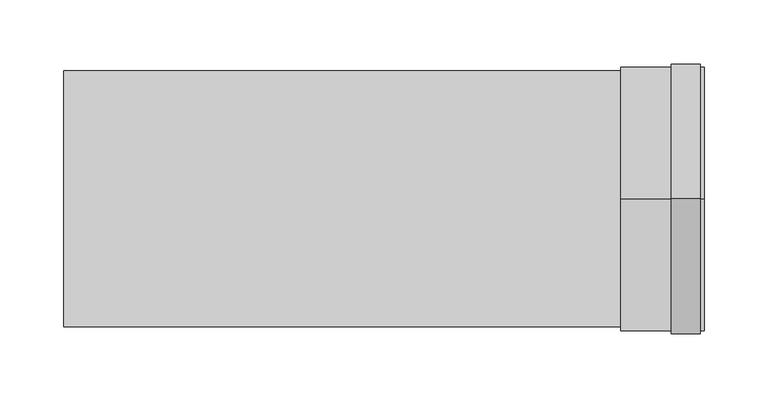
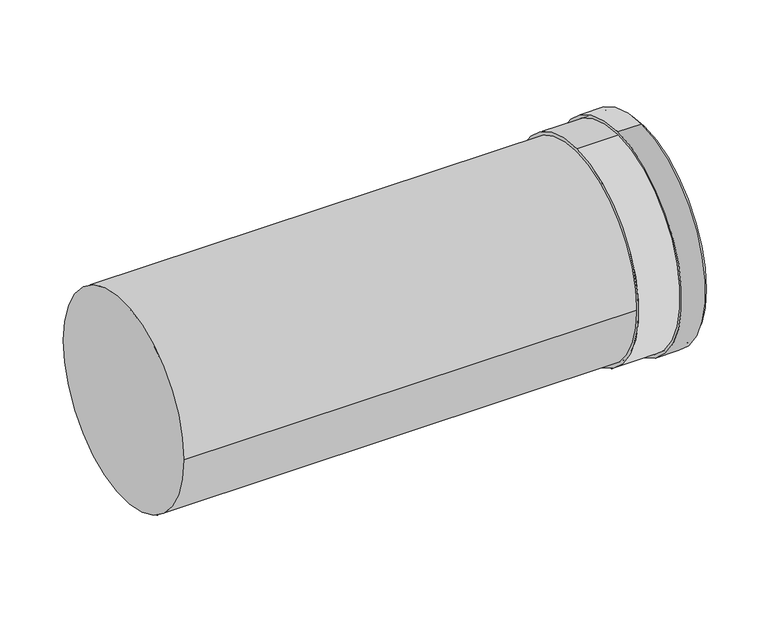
"""IFC4 building model written with IfcOpenShell, lengths in millimetres: duct fitting geometry, DERS_431_LFT_UN_Twinline Extension_M&G : ø130-150-200."""

import ifcopenshell
import ifcopenshell.guid

model = None  # the IFC model being written
_history = None  # IfcOwnerHistory: only IFC2X3 demands one
_inside = {}  # id of a spatial element -> (the spatial element, [elements in it])
_under = {}  # id of a project, library or spatial element -> (it, [spatial elements below it])
_declared = {}  # id of a project -> (the project, [libraries it declares])
_typed = {}  # id of a type object -> (the type object, [elements of that type])
_made_of = {}  # id of a material, layer set ... -> (it, [elements and type objects made of it])


def new_model(schema):
    """Start an empty IFC model of exactly this schema.

    Asked for "IFC4X3", IfcOpenShell would pick the latest addendum, in which some entities
    have other attributes; the version numbers below select the first issue.
    IFC2X3 requires an IfcOwnerHistory on every rooted entity: one is made here for all.
    """
    global model, _history
    if schema == "IFC4X3":
        model = ifcopenshell.file(schema_version=(4, 3, 0, 0))
    else:
        model = ifcopenshell.file(schema=schema)
    _inside.clear()
    _under.clear()
    _declared.clear()
    _typed.clear()
    _made_of.clear()
    _history = None
    if model.schema == "IFC2X3":
        org = make("IfcOrganization", Name="unknown")
        user = make(
            "IfcPersonAndOrganization",
            ThePerson=make("IfcPerson", FamilyName="unknown"),
            TheOrganization=org,
        )
        app = make(
            "IfcApplication",
            ApplicationDeveloper=org,
            Version="unknown",
            ApplicationFullName="unknown",
            ApplicationIdentifier="unknown",
        )
        _history = make(
            "IfcOwnerHistory",
            OwningUser=user,
            OwningApplication=app,
            ChangeAction="ADDED",
            CreationDate=0,
        )
    return model


def make(cls, **values):
    """One entity of the class cls with the attributes given. An attribute that is None is left unset."""
    return model.create_entity(
        cls, **{name: value for name, value in values.items() if value is not None}
    )


def rooted(cls, **values):
    """An entity with a GlobalId (a new one), such as an element, a storey or a relation."""
    return make(cls, GlobalId=ifcopenshell.guid.new(), OwnerHistory=_history, **values)


def si_unit(unit_type, name, prefix=None):
    """IfcSIUnit, for example si_unit("LENGTHUNIT", "METRE", prefix="MILLI")."""
    return make("IfcSIUnit", UnitType=unit_type, Prefix=prefix, Name=name)


def assignment(units):
    """IfcUnitAssignment: the units of a project."""
    return None if units is None else make("IfcUnitAssignment", Units=units)


def point(xyz):
    """IfcCartesianPoint."""
    return None if xyz is None else make("IfcCartesianPoint", Coordinates=xyz)


def direction(xyz):
    """IfcDirection."""
    return None if xyz is None else make("IfcDirection", DirectionRatios=xyz)


def frame(location, z_axis=None, x_axis=None):
    """IfcAxis2Placement3D, a coordinate frame: its origin and axes. An axis left out is left unset."""
    return make(
        "IfcAxis2Placement3D",
        Location=point(location),
        Axis=direction(z_axis),
        RefDirection=direction(x_axis),
    )


def frame_2d(location, x_axis=None):
    """IfcAxis2Placement2D, a coordinate frame in the plane: its origin and x axis."""
    return make(
        "IfcAxis2Placement2D", Location=point(location), RefDirection=direction(x_axis)
    )


def origin():
    """The frame at (0, 0, 0) with its axes left unset."""
    return frame((0.0, 0.0, 0.0))


def origin_2d():
    """The frame at (0, 0) in the plane with its x axis left unset."""
    return frame_2d((0.0, 0.0))


def place(relative_to, where):
    """IfcLocalPlacement: puts the frame where relative to a parent placement (None: the world)."""
    return make(
        "IfcLocalPlacement", PlacementRelTo=relative_to, RelativePlacement=where
    )


def context(
    kind, dimensions, precision=None, world=None, true_north=None, identifier=None
):
    """IfcGeometricRepresentationContext, for example the 3D "Model" context."""
    return make(
        "IfcGeometricRepresentationContext",
        ContextIdentifier=identifier,
        ContextType=kind,
        CoordinateSpaceDimension=dimensions,
        Precision=precision,
        WorldCoordinateSystem=world,
        TrueNorth=true_north,
    )


def project(units=None, contexts=None):
    """IfcProject with its units and contexts."""
    return rooted(
        "IfcProject",
        Name="project",
        RepresentationContexts=contexts,
        UnitsInContext=assignment(units),
    )


def spatial(cls, under=None, at=None, **own):
    """A site, building, storey or space (cls), placed at a placement, below another one or the project."""
    s = rooted(cls, ObjectPlacement=at, **own)
    if under is not None:
        _under.setdefault(under.id(), (under, []))[1].append(s)
    return s


def polyline(points):
    """IfcPolyline through the points."""
    return make("IfcPolyline", Points=[point(p) for p in points])


def circle_curve(where, radius):
    """IfcCircle in the frame where."""
    return make("IfcCircle", Position=where, Radius=radius)


def trimmed(basis, trim1, trim2, sense, master):
    """IfcTrimmedCurve: the piece of a basis curve between two trims."""
    return make(
        "IfcTrimmedCurve",
        BasisCurve=basis,
        Trim1=trim1,
        Trim2=trim2,
        SenseAgreement=sense,
        MasterRepresentation=master,
    )


def segment(curve, same_sense, transition):
    """IfcCompositeCurveSegment."""
    return make(
        "IfcCompositeCurveSegment",
        Transition=transition,
        SameSense=same_sense,
        ParentCurve=curve,
    )


def composite_curve(segments, self_intersect=None):
    """IfcCompositeCurve: segments joined end to end."""
    return make("IfcCompositeCurve", Segments=segments, SelfIntersect=self_intersect)


def outline(outer, holes=None, kind="AREA"):
    """IfcArbitraryClosedProfileDef: a profile drawn as a closed curve; with holes, ...WithVoids."""
    if holes is None:
        return make("IfcArbitraryClosedProfileDef", ProfileType=kind, OuterCurve=outer)
    return make(
        "IfcArbitraryProfileDefWithVoids",
        ProfileType=kind,
        OuterCurve=outer,
        InnerCurves=holes,
    )


def extrude(swept, where, along, depth):
    """IfcExtrudedAreaSolid: the profile swept, set in the frame where, extruded along a direction by depth."""
    return make(
        "IfcExtrudedAreaSolid",
        SweptArea=swept,
        Position=where,
        ExtrudedDirection=direction(along),
        Depth=depth,
    )


def shape(context_of_items, identifier, shape_type, items):
    """IfcShapeRepresentation: the items that make up one representation, for example the "Body"."""
    return make(
        "IfcShapeRepresentation",
        ContextOfItems=context_of_items,
        RepresentationIdentifier=identifier,
        RepresentationType=shape_type,
        Items=items,
    )


def source(mapping_origin, context_of_items, identifier, shape_type, items):
    """IfcRepresentationMap: a shape defined once, which mapped items show again and again."""
    return make(
        "IfcRepresentationMap",
        MappingOrigin=mapping_origin,
        MappedRepresentation=shape(context_of_items, identifier, shape_type, items),
    )


def transform(
    local_origin,
    x_axis=None,
    y_axis=None,
    z_axis=None,
    scale=None,
    scale2=None,
    scale3=None,
    uniform=True,
):
    """IfcCartesianTransformationOperator3D, or its non-uniform kind. x_axis, y_axis, z_axis: its Axis1, 2, 3."""
    if uniform:
        return make(
            "IfcCartesianTransformationOperator3D",
            Axis1=direction(x_axis),
            Axis2=direction(y_axis),
            LocalOrigin=point(local_origin),
            Scale=scale,
            Axis3=direction(z_axis),
        )
    return make(
        "IfcCartesianTransformationOperator3DnonUniform",
        Axis1=direction(x_axis),
        Axis2=direction(y_axis),
        LocalOrigin=point(local_origin),
        Scale=scale,
        Axis3=direction(z_axis),
        Scale2=scale2,
        Scale3=scale3,
    )


def mapped(mapping_source, mapping_target):
    """IfcMappedItem: shows the shape of a source again, moved by a transform."""
    return make(
        "IfcMappedItem", MappingSource=mapping_source, MappingTarget=mapping_target
    )


def made_of(thing, what):
    """Note that an element or type object is made of a material, layer set ...; save() writes the relation."""
    if what is not None:
        _made_of.setdefault(what.id(), (what, []))[1].append(thing)
    return thing


def element(
    cls,
    number,
    at=None,
    inside=None,
    cuts=None,
    type_object=None,
    material=None,
    context=None,
    identifier="Body",
    shape_type=None,
    held_by="IfcProductDefinitionShape",
    body=None,
    shapes=None,
    **own,
):
    """One element of the class cls, such as IfcWall. Its Tag is "e" and its number.

    at: its placement. inside: the storey or other place that contains it. cuts: it is an
    opening in that element (IfcRelVoidsElement). A single representation is given by context,
    identifier, shape_type and body (its items); several are given by shapes. held_by: the class
    of the entity that holds the representations. save() writes the other relations.
    """
    e = rooted(cls, Tag="e%d" % number, ObjectPlacement=at, **own)
    if body is not None:
        shapes = [shape(context, identifier, shape_type, body)]
    if shapes is not None:
        e.Representation = make(held_by, Representations=shapes)
    if inside is not None:
        _inside.setdefault(inside.id(), (inside, []))[1].append(e)
    if cuts is not None:
        rooted(
            "IfcRelVoidsElement", RelatingBuildingElement=cuts, RelatedOpeningElement=e
        )
    if type_object is not None:
        _typed.setdefault(type_object.id(), (type_object, []))[1].append(e)
    return made_of(e, material)


def aggregate(whole, parts):
    """IfcRelAggregates: a whole, such as a stair, and the parts it consists of."""
    return rooted("IfcRelAggregates", RelatingObject=whole, RelatedObjects=parts)


def save(model, path):
    """Write the relations noted so far, then the file.

    IfcRelAggregates (storeys below a building ...), IfcRelContainedInSpatialStructure (elements
    in a storey), IfcRelDefinesByType, IfcRelAssociatesMaterial and IfcRelDeclares: one each for
    every whole, place, type object, material and project.
    """
    for whole, parts in _under.values():
        aggregate(whole, parts)
    for where, things in _inside.values():
        rooted(
            "IfcRelContainedInSpatialStructure",
            RelatedElements=things,
            RelatingStructure=where,
        )
    for kind, things in _typed.values():
        rooted("IfcRelDefinesByType", RelatedObjects=things, RelatingType=kind)
    for what, things in _made_of.values():
        rooted("IfcRelAssociatesMaterial", RelatedObjects=things, RelatingMaterial=what)
    for by, libraries in _declared.values():
        rooted("IfcRelDeclares", RelatingContext=by, RelatedDefinitions=libraries)
    model.write(path)


def plane_surface(at):
    """IfcPlane: the flat surface through the origin of the frame at, square to its z axis."""
    return make("IfcPlane", Position=at)


def cylinder_surface(at, radius):
    """IfcCylindricalSurface: all points at the distance radius from the z axis of the frame at."""
    return make("IfcCylindricalSurface", Position=at, Radius=radius)


def revolved_surface(curve, axis_point, axis_direction):
    """IfcSurfaceOfRevolution: the curve turned about the line through axis_point along axis_direction."""
    return make(
        "IfcSurfaceOfRevolution",
        SweptCurve=make("IfcArbitraryOpenProfileDef", ProfileType="CURVE", Curve=curve),
        AxisPosition=make("IfcAxis1Placement", Location=point(axis_point), Axis=direction(axis_direction)),
    )


def advanced_brep(points, edges, surfaces, faces):
    """IfcAdvancedBrep: a solid bounded by faces that lie on surfaces and meet in shared edges.

    An edge is (start, end): straight between two places in points (the first is 0);
    or (start, end, curve); or (start, end, curve, False) where it runs against its curve.
    A face is (place in surfaces, loops), or (place, loops, False) where it looks against
    its surface's normal. A loop lists edges by number (the first is 1), with a minus sign
    where the edge is run from its end to its start. The first loop is the outer one.
    """
    corners = [point(p) for p in points]
    vertices = [make("IfcVertexPoint", VertexGeometry=c) for c in corners]
    made = []
    for start, end, *more in edges:
        made.append(
            make(
                "IfcEdgeCurve",
                EdgeStart=vertices[start],
                EdgeEnd=vertices[end],
                EdgeGeometry=more[0] if more else make("IfcPolyline", Points=[corners[start], corners[end]]),
                SameSense=more[1] if len(more) > 1 else True,
            )
        )
    hull = []
    for where, loops, *sense in faces:
        bounds = []
        for j, loop in enumerate(loops):
            ring = [make("IfcOrientedEdge", EdgeElement=made[abs(k) - 1], Orientation=k > 0) for k in loop]
            bounds.append(
                make(
                    "IfcFaceOuterBound" if j == 0 else "IfcFaceBound",
                    Bound=make("IfcEdgeLoop", EdgeList=ring),
                    Orientation=True,
                )
            )
        hull.append(make("IfcAdvancedFace", Bounds=bounds, FaceSurface=surfaces[where], SameSense=sense[0] if sense else True))
    return make("IfcAdvancedBrep", Outer=make("IfcClosedShell", CfsFaces=hull))


def duct_fitting_8dfe7da2(model_context):
    return source(origin(), model_context, "Body", "SolidModel", [
        extrude(outline(composite_curve([segment(trimmed(circle_curve(origin_2d(), 106.0), [point((0.0, 106.0))], [point((0.0, -106.0))], False, "CARTESIAN"), True, "CONTINUOUS"), segment(trimmed(circle_curve(origin_2d(), 106.0), [point((0.0, -106.0))], [point((0.0, 106.0))], False, "CARTESIAN"), True, "CONTINUOUS")], self_intersect=False), holes=[composite_curve([segment(trimmed(circle_curve(origin_2d(), 103.0), [point((0.0, -103.0))], [point((0.0, 103.0))], True, "CARTESIAN"), True, "CONTINUOUS"), segment(trimmed(circle_curve(origin_2d(), 103.0), [point((0.0, 103.0))], [point((0.0, -103.0))], True, "CARTESIAN"), True, "CONTINUOUS")], self_intersect=False)]), frame((474.5, 0.0, 0.0), z_axis=(1.0, 0.0, 0.0), x_axis=(0.0, 1.0, 0.0)), (0.0, 0.0, 1.0), 22.5),
        advanced_brep(
        [(500.0, 0.0, -103.0), (500.0, 0.0, 103.0), (500.0, 0.0, 99.0), (500.0, 0.0, -99.0), (435.0, 0.0, -103.0), (435.0, 0.0, 103.0), (440.0, 0.0, -99.0), (440.0, 0.0, 99.0)],
        [
            (0, 1, circle_curve(frame((500.0, 0.0, 0.0), z_axis=(1.0, 0.0, 0.0), x_axis=(0.0, 0.0, 1.0)), 103.0)),
            (1, 0, circle_curve(frame((500.0, 0.0, 0.0), z_axis=(1.0, 0.0, 0.0), x_axis=(0.0, 0.0, 1.0)), 103.0)),
            (2, 3, circle_curve(frame((500.0, 0.0, 0.0), z_axis=(-1.0, 0.0, 0.0), x_axis=(0.0, 0.0, 1.0)), 99.0)),
            (3, 2, circle_curve(frame((500.0, 0.0, 0.0), z_axis=(-1.0, 0.0, 0.0), x_axis=(0.0, 0.0, 1.0)), 99.0)),
            (4, 5, circle_curve(frame((435.0, 0.0, 0.0), z_axis=(-1.0, 0.0, 0.0), x_axis=(0.0, 0.0, 1.0)), 103.0)),
            (5, 4, circle_curve(frame((435.0, 0.0, 0.0), z_axis=(-1.0, 0.0, 0.0), x_axis=(0.0, 0.0, 1.0)), 103.0)),
            (0, 4),
            (5, 1),
            (6, 7, circle_curve(frame((440.0, 0.0, 0.0), z_axis=(1.0, 0.0, 0.0), x_axis=(0.0, 0.0, 1.0)), 99.0)),
            (7, 6, circle_curve(frame((440.0, 0.0, 0.0), z_axis=(1.0, 0.0, 0.0), x_axis=(0.0, 0.0, 1.0)), 99.0)),
            (6, 3),
            (2, 7),
        ],
        [
            plane_surface(frame((500.0, 0.0, 103.0), z_axis=(1.0, 0.0, 0.0), x_axis=(0.0, -1.0, 0.0))),
            plane_surface(frame((435.0, 0.0, 103.0), z_axis=(-1.0, 0.0, 0.0), x_axis=(0.0, 1.0, 0.0))),
            cylinder_surface(frame((435.0, 0.0, 0.0), z_axis=(1.0, 0.0, 0.0), x_axis=(0.0, 0.0, 1.0)), 103.0),
            plane_surface(frame((440.0, 0.0, 99.0), z_axis=(1.0, 0.0, 0.0), x_axis=(0.0, 1.0, 0.0))),
            revolved_surface(polyline([(500.0, 0.0, 99.0), (440.0, 0.0, 99.0)]), (440.0, 0.0, 0.0), (1.0, 0.0, 0.0)),
        ],
        [
            (0, [[1, 2], [3, 4]]),
            (1, [[5, 6]]),
            (2, [[-1, 7, -6, 8]]),
            (2, [[-2, -8, -5, -7]]),
            (3, [[9, 10]]),
            (4, [[-9, 11, -3, 12]]),
            (4, [[-10, -12, -4, -11]]),
        ],
    ),
        extrude(outline(composite_curve([segment(trimmed(circle_curve(origin_2d(), 100.0), [point((100.0, 0.0))], [point((-100.0, 0.0))], False, "CARTESIAN"), True, "CONTINUOUS"), segment(trimmed(circle_curve(origin_2d(), 100.0), [point((-100.0, 0.0))], [point((100.0, 0.0))], False, "CARTESIAN"), True, "CONTINUOUS")], self_intersect=False)), frame((-2.39e-05, 0.0, 0.0), z_axis=(1.0, 0.0, 0.0), x_axis=(0.0, 1.0, 0.0)), (0.0, 0.0, 1.0), 440.0),
    ])


if __name__ == "__main__":
    model = new_model("IFC4")
    model_context = context("Model", 3, world=origin())
    ifc_project = project(units=[si_unit("LENGTHUNIT", "METRE", prefix="MILLI")], contexts=[model_context])
    site = spatial("IfcSite", under=ifc_project)
    building = spatial("IfcBuilding", under=site)
    placement = place(None, origin())
    duct_fitting_shape = duct_fitting_8dfe7da2(model_context)
    element("IfcDuctFitting", 1, ObjectType="DERS_431_LFT_UN_Twinline Extension_M&G : ø130-150-200", at=placement, inside=building, context=model_context, shape_type="MappedRepresentation", body=[
        mapped(duct_fitting_shape, transform((0.0, 0.0, 0.0), x_axis=(1.0, 0.0, 0.0), y_axis=(0.0, 1.0, 0.0), z_axis=(0.0, 0.0, 1.0))),
    ])
    save(model, "model.ifc")
